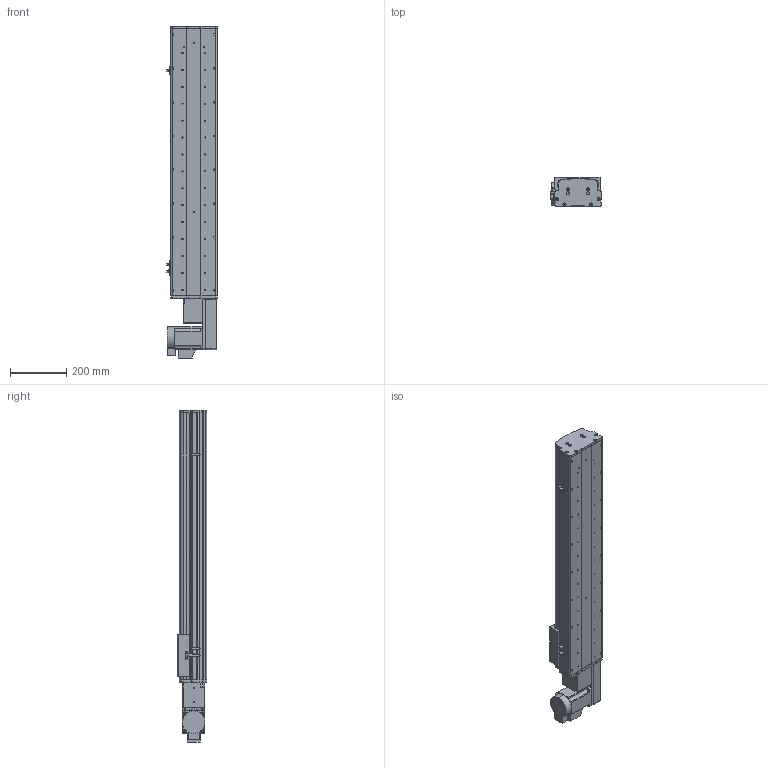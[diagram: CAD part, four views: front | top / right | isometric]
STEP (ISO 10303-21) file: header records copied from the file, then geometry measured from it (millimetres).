
FILE_DESCRIPTION (( 'STEP AP214' ), '1' );
FILE_NAME ('KSD165B-S700-MRB-CM.STEP', '2017-10-16T08:49:53', ( '微软用户' ), ( '微软中国' ), 'SwSTEP 2.0', 'SolidWorks 2014', '' );
FILE_SCHEMA (( 'AUTOMOTIVE_DESIGN' ));
Length unit declared in the file: millimetre
Products named in the file (17): KSD165模组-后端板1-同步带; KSD165模组-同步带滑动座-最新版; KSD165B-S700-MRB-CM; HTPA26S5M250-A-H8 750W萇儂蚚; HTPA26S5M250-A-H8 400W萇儂蚚 ; 130宽模组马达安装板连板左右折同步带; 130宽模组保护罩上下左右折-同步带; KSD165模组-同步带防尘盖1-700行程-最新版; KSD165模组同步带底板-700行程-最新; 拸秶雄ん750W侜督萇儂; 165宽马达安装板同步带右; U倰嫖萇假蚾璃; U倰嫖萇EEㄜSX672; 覜茼え68遵圉猾敕; KSD165模组-同步带-防撞垫2; KSD165模组同步带-防撞垫1; KSD165耀郪-ヶ傷啣1-肮祭湍
Assembly tree (20 placements, depth 2):
  KSD165B-S700-MRB-CM
    KSD165模组-同步带滑动座-最新版
    KSD165模组-后端板1-同步带
    KSD165耀郪-ヶ傷啣1-肮祭湍
    KSD165模组同步带-防撞垫1
    KSD165模组-同步带-防撞垫2
    覜茼え68遵圉猾敕
    U倰嫖萇EEㄜSX672  x3
    U倰嫖萇假蚾璃  x3
    165宽马达安装板同步带右
    拸秶雄ん750W侜督萇儂
    KSD165模组同步带底板-700行程-最新
    KSD165模组-同步带防尘盖1-700行程-最新版
    130宽模组保护罩上下左右折-同步带
    130宽模组马达安装板连板左右折同步带
    HTPA26S5M250-A-H8 400W萇儂蚚 
    HTPA26S5M250-A-H8 750W萇儂蚚
Bounding box: 178.7 x 104 x 1177.5 mm (x, y, z)
Volume: 6565414 mm3; surface area: 1520772.2 mm2
Topology: 21 solids, 21 shells, 1925 faces, 5430 edges, 3544 vertices
Faces by surface type: cylinder 1231, plane 582, cone 112
Entity records: 62204 total; most frequent: CARTESIAN_POINT 12736, DIRECTION 10250, ORIENTED_EDGE 9520, EDGE_CURVE 4760, AXIS2_PLACEMENT_3D 4016, VERTEX_POINT 3136, CIRCLE 2288, VECTOR 2218
